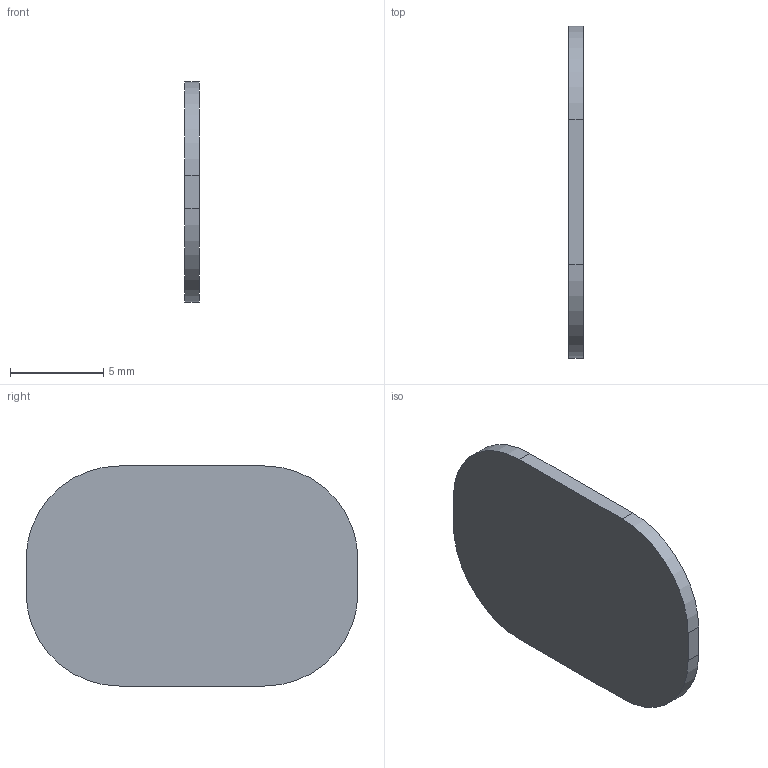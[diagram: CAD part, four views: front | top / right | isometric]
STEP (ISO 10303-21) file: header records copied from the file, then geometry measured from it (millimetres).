
FILE_DESCRIPTION(('Open CASCADE Model'),'2;1');
FILE_NAME('Open CASCADE Shape Model','2026-09-04T20:18:28',('Author'),( 'Open CASCADE'),'Open CASCADE STEP processor 7.7','Open CASCADE 7.7' ,'Unknown');
FILE_SCHEMA(('AUTOMOTIVE_DESIGN { 1 0 10303 214 1 1 1 1 }'));
Length unit declared in the file: millimetre
Products named in the file (1): Open CASCADE STEP translator 7.7 13
Bounding box: 0.8 x 17.8 x 11.8 mm (x, y, z)
Volume: 145.5 mm3; surface area: 429.7 mm2
Topology: 1 solids, 1 shells, 23 faces, 60 edges, 40 vertices
Faces by surface type: plane 19, cylinder 4
Entity records: 1472 total; most frequent: CARTESIAN_POINT 300, DIRECTION 200, LINE 132, VECTOR 132, ORIENTED_EDGE 120, PCURVE 120, DEFINITIONAL_REPRESENTATION 120, EDGE_CURVE 60
